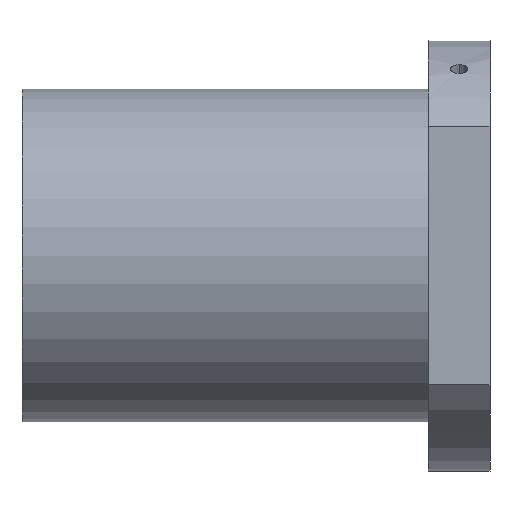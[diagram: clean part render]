
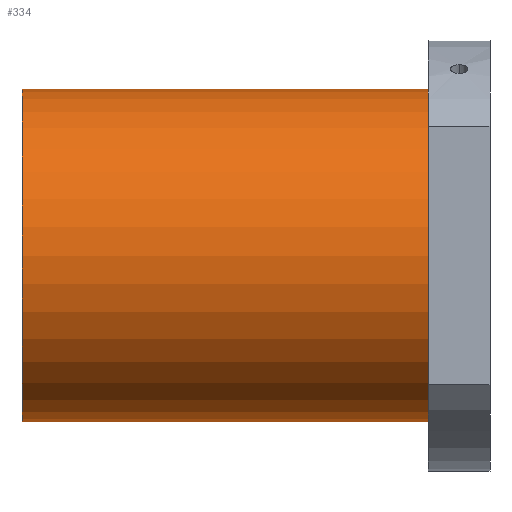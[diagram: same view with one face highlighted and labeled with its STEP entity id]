
A CAD part, left-side view. The second image highlights one B-rep face of the part: STEP entity #334.
In plain terms, the highlighted cylindrical face has radius 67.5 mm (diameter 135 mm), a partial arc.
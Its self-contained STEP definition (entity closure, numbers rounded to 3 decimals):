
#49 = VERTEX_POINT ( 'NONE', #396 ) ;
#52 = VERTEX_POINT ( 'NONE', #395 ) ;
#53 = EDGE_CURVE ( 'NONE', #52, #55, #529, .T. ) ;
#55 = VERTEX_POINT ( 'NONE', #531 ) ;
#57 = VERTEX_POINT ( 'NONE', #533 ) ;
#59 = EDGE_CURVE ( 'NONE', #49, #57, #519, .T. ) ;
#266 = EDGE_CURVE ( 'NONE', #57, #55, #1130, .T. ) ;
#284 = ORIENTED_EDGE ( 'NONE', *, *, #344, .T. ) ;
#334 = ADVANCED_FACE ( 'NONE', ( #982 ), #981, .T. ) ;
#336 = ORIENTED_EDGE ( 'NONE', *, *, #53, .F. ) ;
#339 = ORIENTED_EDGE ( 'NONE', *, *, #59, .T. ) ;
#340 = ORIENTED_EDGE ( 'NONE', *, *, #266, .T. ) ;
#344 = EDGE_CURVE ( 'NONE', #52, #49, #1074, .T. ) ;
#372 = EDGE_LOOP ( 'NONE', ( #336, #284, #339, #340 ) ) ;
#395 = CARTESIAN_POINT ( 'NONE',  ( 0., 190., 67.5 ) ) ;
#396 = CARTESIAN_POINT ( 'NONE',  ( 0., 190., -67.5 ) ) ;
#516 = DIRECTION ( 'NONE',  ( 0., -1., 0. ) ) ;
#517 = VECTOR ( 'NONE', #516, 1000. ) ;
#518 = CARTESIAN_POINT ( 'NONE',  ( 0., 107.5, -67.5 ) ) ;
#519 = LINE ( 'NONE', #518, #517 ) ;
#520 = VECTOR ( 'NONE', #532, 1000. ) ;
#529 = LINE ( 'NONE', #530, #520 ) ;
#530 = CARTESIAN_POINT ( 'NONE',  ( 0., 107.5, 67.5 ) ) ;
#531 = CARTESIAN_POINT ( 'NONE',  ( 0., 25., 67.5 ) ) ;
#532 = DIRECTION ( 'NONE',  ( 0., -1., 0. ) ) ;
#533 = CARTESIAN_POINT ( 'NONE',  ( 0., 25., -67.5 ) ) ;
#975 = CARTESIAN_POINT ( 'NONE',  ( 0., 107.5, 0. ) ) ;
#976 = AXIS2_PLACEMENT_3D ( 'NONE', #975, #1077, #1076 ) ;
#981 = CYLINDRICAL_SURFACE ( 'NONE', #976, 67.5 ) ;
#982 = FACE_OUTER_BOUND ( 'NONE', #372, .T. ) ;
#993 = CARTESIAN_POINT ( 'NONE',  ( 0., 25., 0. ) ) ;
#996 = DIRECTION ( 'NONE',  ( 0., 0., -1. ) ) ;
#997 = DIRECTION ( 'NONE',  ( 0., 1., 0. ) ) ;
#1065 = DIRECTION ( 'NONE',  ( 0., 0., -1. ) ) ;
#1066 = DIRECTION ( 'NONE',  ( 0., -1., 0. ) ) ;
#1067 = CARTESIAN_POINT ( 'NONE',  ( 0., 190., 0. ) ) ;
#1068 = AXIS2_PLACEMENT_3D ( 'NONE', #1067, #1066, #1065 ) ;
#1074 = CIRCLE ( 'NONE', #1068, 67.5 ) ;
#1076 = DIRECTION ( 'NONE',  ( 0., 0., -1. ) ) ;
#1077 = DIRECTION ( 'NONE',  ( 0., -1., 0. ) ) ;
#1129 = AXIS2_PLACEMENT_3D ( 'NONE', #993, #997, #996 ) ;
#1130 = CIRCLE ( 'NONE', #1129, 67.5 ) ;
